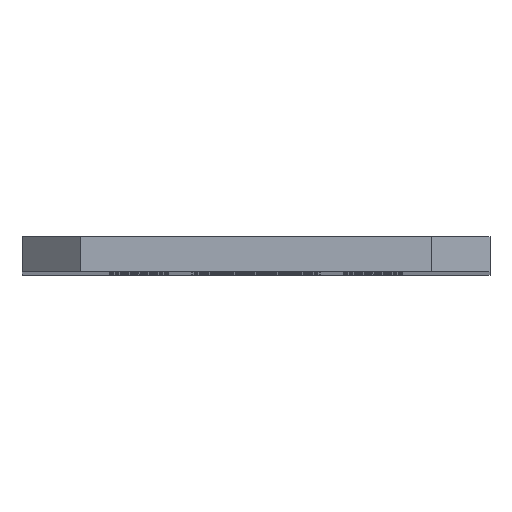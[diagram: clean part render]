
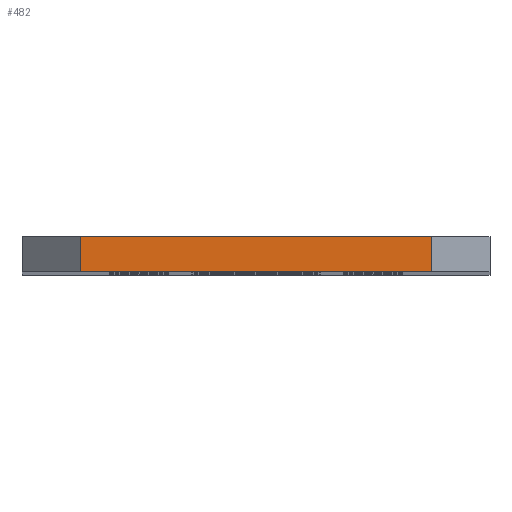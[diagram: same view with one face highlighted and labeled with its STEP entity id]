
A CAD part, top view. The second image highlights one B-rep face of the part: STEP entity #482.
In plain terms, the highlighted planar face has unit normal (0, 0, 1).
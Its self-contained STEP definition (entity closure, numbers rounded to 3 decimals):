
#74 = CARTESIAN_POINT ( 'NONE',  ( 35., 0., 0. ) ) ;
#123 = VECTOR ( 'NONE', #1191, 1000. ) ;
#133 = CARTESIAN_POINT ( 'NONE',  ( 5., 3., 0. ) ) ;
#177 = EDGE_CURVE ( 'NONE', #958, #759, #310, .T. ) ;
#274 = LINE ( 'NONE', #1778, #677 ) ;
#302 = PLANE ( 'NONE',  #1552 ) ;
#310 = LINE ( 'NONE', #953, #1404 ) ;
#355 = CARTESIAN_POINT ( 'NONE',  ( 5., 0., 0. ) ) ;
#437 = CARTESIAN_POINT ( 'NONE',  ( 5., 3., 0. ) ) ;
#482 = ADVANCED_FACE ( 'NONE', ( #1392 ), #302, .F. ) ;
#551 = EDGE_CURVE ( 'NONE', #875, #958, #274, .T. ) ;
#677 = VECTOR ( 'NONE', #919, 1000. ) ;
#690 = EDGE_LOOP ( 'NONE', ( #1113, #1382, #1527, #1012 ) ) ;
#759 = VERTEX_POINT ( 'NONE', #74 ) ;
#760 = DIRECTION ( 'NONE',  ( 0., 0., -1. ) ) ;
#793 = LINE ( 'NONE', #437, #1144 ) ;
#875 = VERTEX_POINT ( 'NONE', #133 ) ;
#919 = DIRECTION ( 'NONE',  ( 1., 0., 0. ) ) ;
#953 = CARTESIAN_POINT ( 'NONE',  ( 35., 3., 0. ) ) ;
#958 = VERTEX_POINT ( 'NONE', #1427 ) ;
#996 = DIRECTION ( 'NONE',  ( 0., -1., 0. ) ) ;
#1012 = ORIENTED_EDGE ( 'NONE', *, *, #1233, .T. ) ;
#1039 = DIRECTION ( 'NONE',  ( -1., 0., 0. ) ) ;
#1089 = CARTESIAN_POINT ( 'NONE',  ( 5., 0., 0. ) ) ;
#1113 = ORIENTED_EDGE ( 'NONE', *, *, #1621, .T. ) ;
#1144 = VECTOR ( 'NONE', #1280, 1000. ) ;
#1191 = DIRECTION ( 'NONE',  ( 1., 0., 0. ) ) ;
#1233 = EDGE_CURVE ( 'NONE', #875, #1723, #793, .T. ) ;
#1278 = LINE ( 'NONE', #355, #123 ) ;
#1280 = DIRECTION ( 'NONE',  ( 0., -1., 0. ) ) ;
#1382 = ORIENTED_EDGE ( 'NONE', *, *, #177, .F. ) ;
#1392 = FACE_OUTER_BOUND ( 'NONE', #690, .T. ) ;
#1404 = VECTOR ( 'NONE', #996, 1000. ) ;
#1427 = CARTESIAN_POINT ( 'NONE',  ( 35., 3., 0. ) ) ;
#1527 = ORIENTED_EDGE ( 'NONE', *, *, #551, .F. ) ;
#1552 = AXIS2_PLACEMENT_3D ( 'NONE', #1751, #760, #1039 ) ;
#1621 = EDGE_CURVE ( 'NONE', #1723, #759, #1278, .T. ) ;
#1723 = VERTEX_POINT ( 'NONE', #1089 ) ;
#1751 = CARTESIAN_POINT ( 'NONE',  ( 5., 3., 0. ) ) ;
#1778 = CARTESIAN_POINT ( 'NONE',  ( 5., 3., 0. ) ) ;
